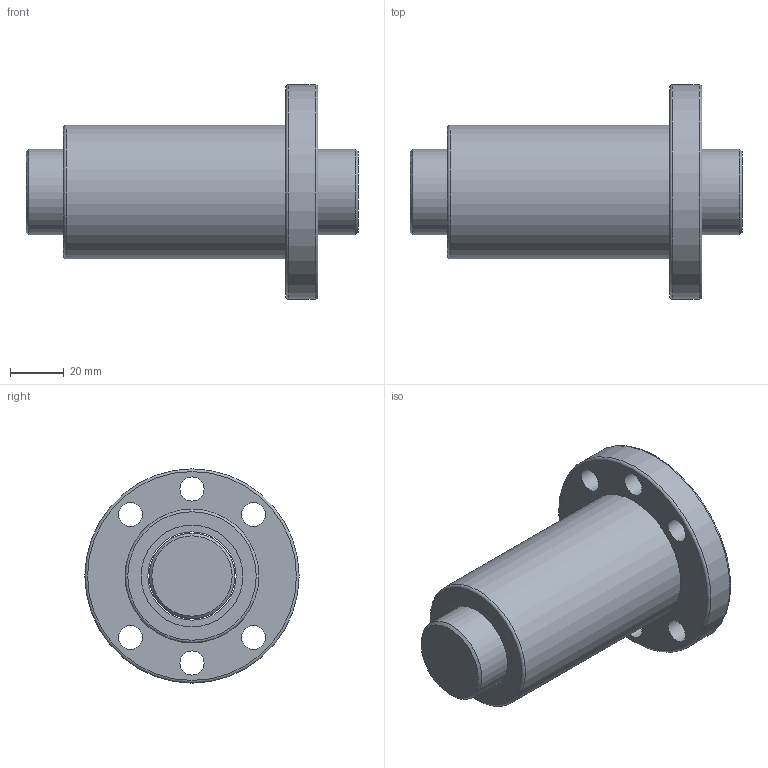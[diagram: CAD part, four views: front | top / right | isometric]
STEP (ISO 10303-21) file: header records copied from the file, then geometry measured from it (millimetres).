
FILE_DESCRIPTION(/* description */ (''),/* implementation_level */ '2;1');
FILE_NAME(/* name */ 'SFU3210',/* time_stamp */ '2007-10-26T13:31:15+08:00',/* author */ (''),/* organization */ (''),/* preprocessor_version */ 'ST-DEVELOPER v9',/* originating_system */ 'EDS PLM SOLUTIONS - UNIGRAPHICS NX 1.0',/* authorisation */ '');
FILE_SCHEMA (('CONFIG_CONTROL_DESIGN'));
Length unit declared in the file: millimetre
Products named in the file (1): FANNDA0400ib
Bounding box: 124 x 80 x 80 mm (x, y, z)
Volume: 236942.5 mm3; surface area: 52689.6 mm2
Topology: 4 solids, 4 shells, 32 faces, 58 edges, 37 vertices
Faces by surface type: cylinder 16, plane 11, torus 3, cone 2
Full cylindrical faces by diameter (mm): 9 x6, 32 x1, 33 x3, 38 x4, 50 x1, 80 x1
Entity records: 810 total; most frequent: DIRECTION 140, CARTESIAN_POINT 107, EDGE_LOOP 74, ORIENTED_EDGE 74, AXIS2_PLACEMENT_3D 70, FACE_BOUND 61, VERTEX_POINT 37, EDGE_CURVE 37
